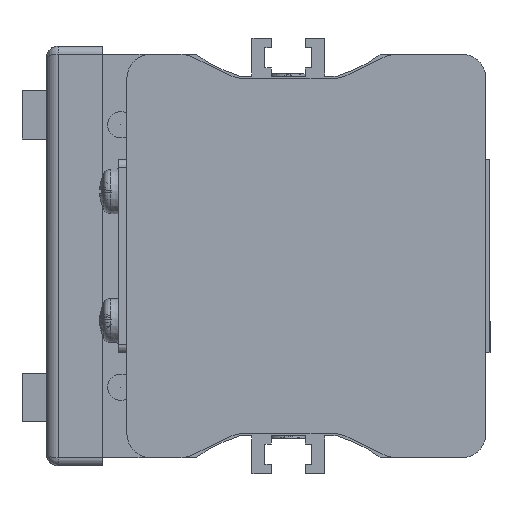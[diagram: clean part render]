
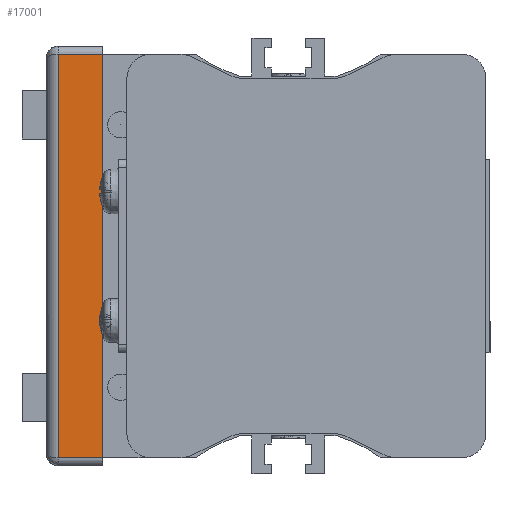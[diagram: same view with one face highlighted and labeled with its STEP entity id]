
A CAD part, left-side view. The second image highlights one B-rep face of the part: STEP entity #17001.
In plain terms, the highlighted planar face has unit normal (-1, 0, 0) as drawn and (0, 0, -1) by its records, which use the part's own axes.
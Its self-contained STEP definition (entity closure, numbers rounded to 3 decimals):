
#2317=LINE('',#32363,#3712);
#2347=LINE('',#32860,#3742);
#2348=LINE('',#32913,#3743);
#2349=LINE('',#32915,#3744);
#3712=VECTOR('',#22744,50.);
#3742=VECTOR('',#22802,50.);
#3743=VECTOR('',#22807,5.5);
#3744=VECTOR('',#22810,5.5);
#4968=FACE_OUTER_BOUND('',#6063,.T.);
#6063=EDGE_LOOP('',(#15415,#15416,#15417,#15418));
#8230=VERTEX_POINT('',#32360);
#8231=VERTEX_POINT('',#32362);
#8259=VERTEX_POINT('',#32725);
#8260=VERTEX_POINT('',#32859);
#10618=EDGE_CURVE('',#8230,#8231,#2317,.T.);
#10659=EDGE_CURVE('',#8260,#8259,#2347,.T.);
#10662=EDGE_CURVE('',#8230,#8260,#2348,.T.);
#10663=EDGE_CURVE('',#8259,#8231,#2349,.T.);
#15415=ORIENTED_EDGE('',*,*,#10659,.T.);
#15416=ORIENTED_EDGE('',*,*,#10663,.T.);
#15417=ORIENTED_EDGE('',*,*,#10618,.F.);
#15418=ORIENTED_EDGE('',*,*,#10662,.T.);
#16074=PLANE('',#18541);
#17001=ADVANCED_FACE('',(#4968),#16074,.T.);
#18541=AXIS2_PLACEMENT_3D('',#32914,#22808,#22809);
#22744=DIRECTION('',(1.,0.,0.));
#22802=DIRECTION('',(1.,0.,0.));
#22807=DIRECTION('',(0.,1.,0.));
#22808=DIRECTION('center_axis',(0.,0.,-1.));
#22809=DIRECTION('ref_axis',(0.,1.,0.));
#22810=DIRECTION('',(0.,-1.,0.));
#32360=CARTESIAN_POINT('',(1.,0.,-97.));
#32362=CARTESIAN_POINT('',(51.,0.,-97.));
#32363=CARTESIAN_POINT('',(1.,0.,-97.));
#32725=CARTESIAN_POINT('',(51.,5.5,-97.));
#32859=CARTESIAN_POINT('',(1.,5.5,-97.));
#32860=CARTESIAN_POINT('',(1.,5.5,-97.));
#32913=CARTESIAN_POINT('',(1.,0.,-97.));
#32914=CARTESIAN_POINT('Origin',(1.,0.,-97.));
#32915=CARTESIAN_POINT('',(51.,5.5,-97.));
